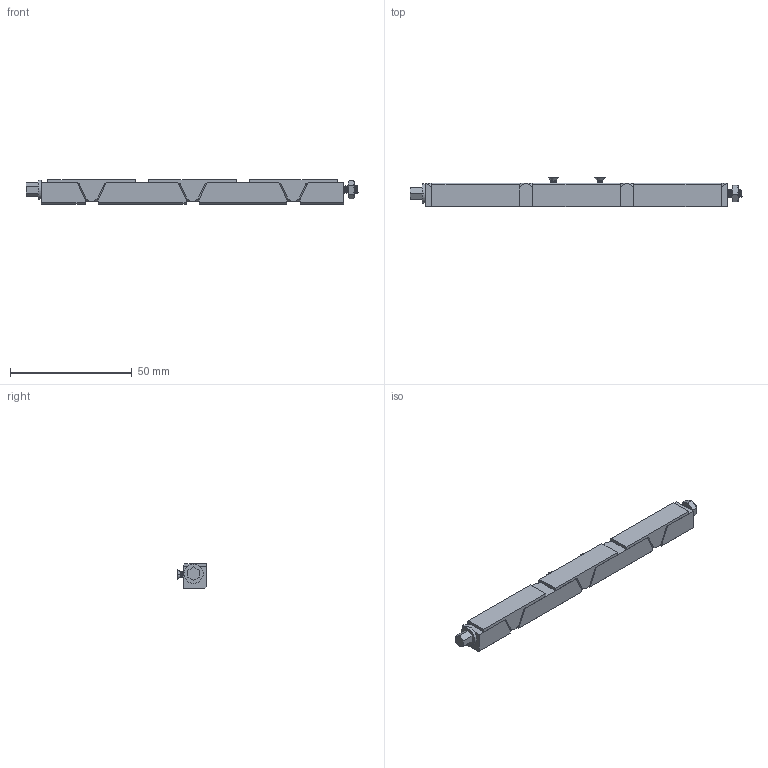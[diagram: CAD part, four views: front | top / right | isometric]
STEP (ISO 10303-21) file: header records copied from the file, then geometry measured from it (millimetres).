
FILE_DESCRIPTION (( 'STEP AP203' ), '1' );
FILE_NAME ('375-07 Side B.STEP', '2022-08-19T16:47:11', ( '' ), ( '' ), 'SwSTEP 2.0', 'SolidWorks 2021', '' );
FILE_SCHEMA (( 'CONFIG_CONTROL_DESIGN' ));
Length unit declared in the file: inch
Products named in the file (9): IL-375#-MOW; MS51959-2; 375-07 Side B; NAS 671C6; IL-375TB-#W_-7; IL-375#-RW; IL-375#-MAW; IL-375#-LW; MS15795-805
Assembly tree (12 placements, depth 2):
  375-07 Side B
    IL-375#-LW
    IL-375#-RW
    MS15795-805
    IL-375#-MAW  x4
    IL-375#-MOW
    IL-375TB-#W_-7
    NAS 671C6
    MS51959-2  x2
Bounding box: 136.53 x 11.94 x 10.16 mm (x, y, z)
Volume: 10253.7 mm3; surface area: 11501.3 mm2
Topology: 14 solids, 14 shells, 452 faces, 1219 edges, 796 vertices
Faces by surface type: cylinder 214, plane 181, cone 48, bspline 9
Entity records: 17807 total; most frequent: CARTESIAN_POINT 10204, ORIENTED_EDGE 1592, DIRECTION 1134, EDGE_CURVE 796, VERTEX_POINT 522, VECTOR 390, LINE 390, AXIS2_PLACEMENT_3D 372
